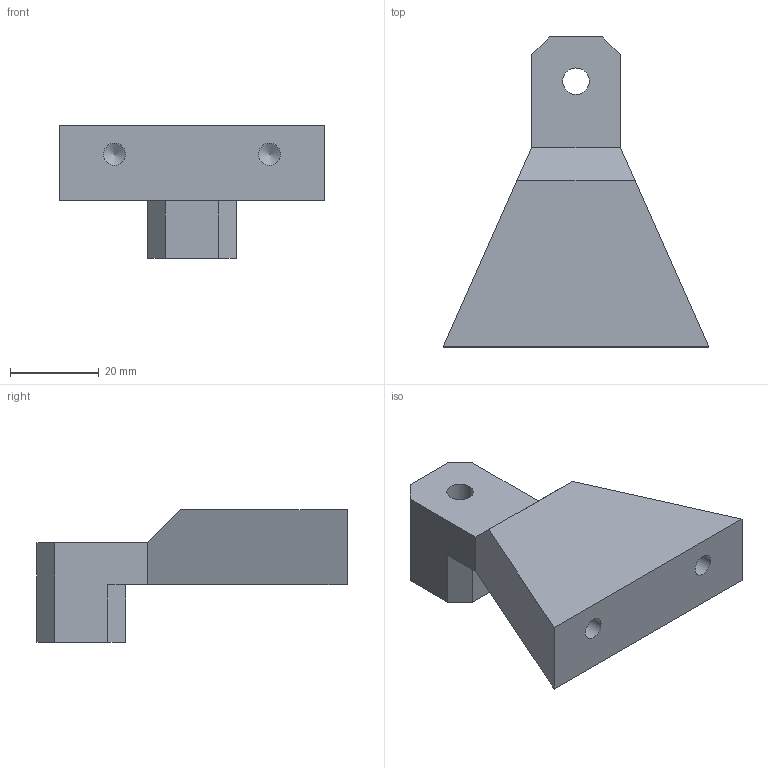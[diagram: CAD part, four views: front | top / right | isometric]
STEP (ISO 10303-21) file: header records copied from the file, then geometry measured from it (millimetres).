
FILE_DESCRIPTION (( 'STEP AP214' ), '1' );
FILE_NAME ('L19149.step', '2024-12-03T16:22:44', ( '' ), ( '' ), 'SwSTEP 2.0', 'SolidWorks 2023', '' );
FILE_SCHEMA (( 'AUTOMOTIVE_DESIGN' ));
Length unit declared in the file: millimetre
Products named in the file (1): L19149
Bounding box: 60 x 70 x 30 mm (x, y, z)
Volume: 37916.5 mm3; surface area: 9813.8 mm2
Topology: 1 solids, 1 shells, 21 faces, 54 edges, 35 vertices
Faces by surface type: plane 16, cylinder 3, cone 2
Full cylindrical faces by diameter (mm): 5 x2, 6 x1
Entity records: 605 total; most frequent: CARTESIAN_POINT 100, DIRECTION 96, ORIENTED_EDGE 92, EDGE_CURVE 46, VECTOR 40, LINE 40, VERTEX_POINT 32, EDGE_LOOP 28
